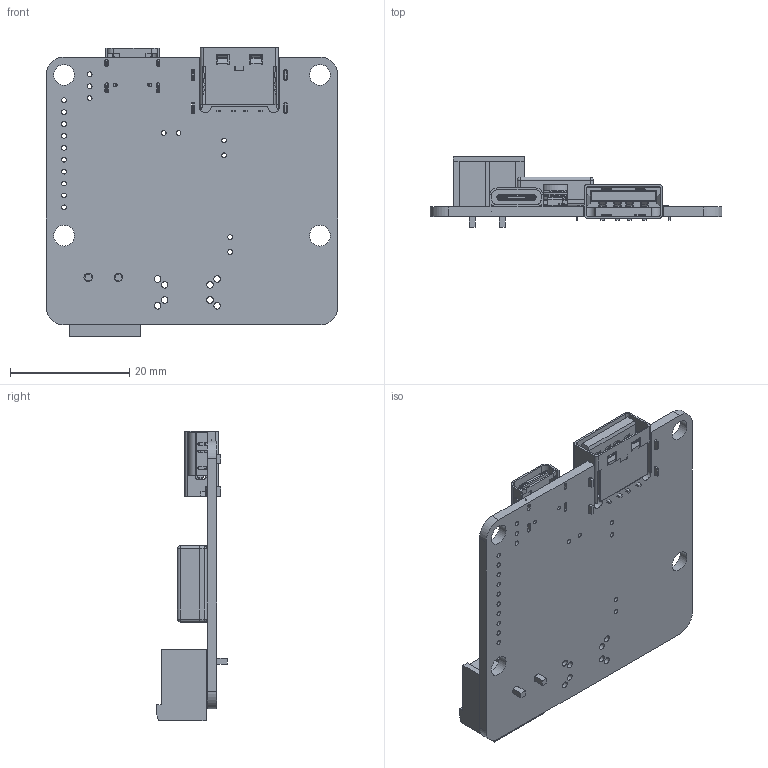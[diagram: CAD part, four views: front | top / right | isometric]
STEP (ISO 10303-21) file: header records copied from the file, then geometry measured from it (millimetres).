
FILE_DESCRIPTION(/* description */ (''),/* implementation_level */ '2;1');
FILE_NAME(/* name */ 'CG-CCJPD27_3DModel_JWV1.step',/* time_stamp */ '2024-07-12T15:31:55-04:00',/* author */ (''),/* organization */ (''),/* preprocessor_version */ 'ST-DEVELOPER v20',/* originating_system */ 'Autodesk Translation Framework v12.20.1.177',/* authorisation */ '');
FILE_SCHEMA (('AUTOMOTIVE_DESIGN { 1 0 10303 214 3 1 1 }'));
Length unit declared in the file: millimetre
Products named in the file (20): (Unsaved); Board; type-c; TypeC(12); C16; USB1; AF_1; LED1; C17; L1; 7443550x; Boden; Boden (1); Deckel; J_IN; c-796638-2-c3-3d; C35; LED2; LED_0603_Lens_BLUE; LED_0603_Base_BLUE
Assembly tree (21 placements, depth 4):
  (Unsaved)
    Board
    type-c
      TypeC(12)
    C16
    USB1
      AF_1
    LED1
      LED_0603_Base_BLUE
      LED_0603_Lens_BLUE
    C17
    L1
      7443550x
        Boden
        Boden (1)
        Deckel
    J_IN
      c-796638-2-c3-3d
    C35
    LED2
      LED_0603_Lens_BLUE
      LED_0603_Base_BLUE
Bounding box: 49 x 11.85 x 48.68 mm (x, y, z)
Volume: 4894.9 mm3; surface area: 9009.8 mm2
Topology: 13 solids, 13 shells, 1324 faces, 3676 edges, 2389 vertices
Faces by surface type: plane 925, cylinder 323, bspline 48, sphere 20, cone 4, torus 4
Full cylindrical faces by diameter (mm): 0.5 x2, 0.65 x2, 0.8 x19, 1.1 x8, 1.4 x2, 3.5 x4, 5.2 x1, 5.24 x2, 10.24 x2
Entity records: 43993 total; most frequent: CARTESIAN_POINT 9691, ORIENTED_EDGE 7096, DIRECTION 6652, EDGE_CURVE 3548, LINE 2824, VECTOR 2824, VERTEX_POINT 2313, AXIS2_PLACEMENT_3D 1914
